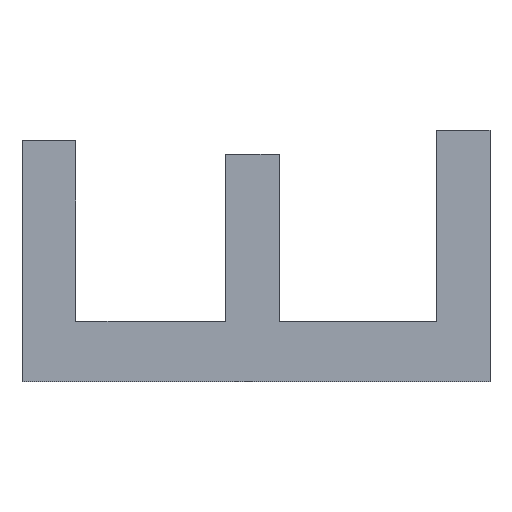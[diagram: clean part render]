
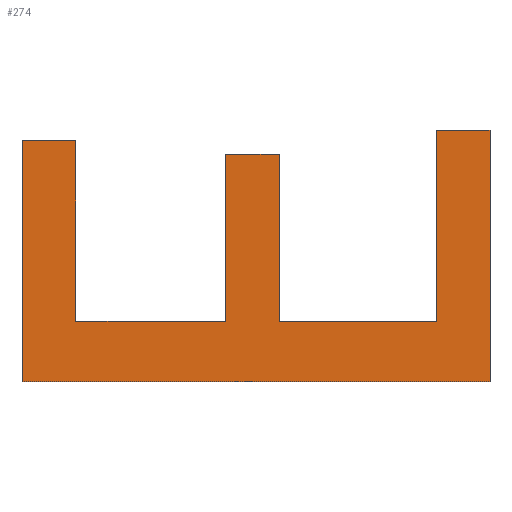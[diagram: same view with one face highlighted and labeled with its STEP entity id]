
A CAD part, top view. The second image highlights one B-rep face of the part: STEP entity #274.
In plain terms, the highlighted planar face has unit normal (0, 0, 1).
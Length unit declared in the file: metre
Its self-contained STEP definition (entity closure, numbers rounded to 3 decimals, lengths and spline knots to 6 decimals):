
#24=ORIENTED_EDGE('',*,*,#96,.T.);
#25=ORIENTED_EDGE('',*,*,#97,.T.);
#26=ORIENTED_EDGE('',*,*,#98,.T.);
#27=ORIENTED_EDGE('',*,*,#99,.T.);
#28=ORIENTED_EDGE('',*,*,#100,.T.);
#29=ORIENTED_EDGE('',*,*,#101,.T.);
#30=ORIENTED_EDGE('',*,*,#102,.T.);
#31=ORIENTED_EDGE('',*,*,#103,.T.);
#32=ORIENTED_EDGE('',*,*,#104,.T.);
#33=ORIENTED_EDGE('',*,*,#105,.T.);
#34=ORIENTED_EDGE('',*,*,#106,.T.);
#35=ORIENTED_EDGE('',*,*,#107,.T.);
#96=EDGE_CURVE('',#132,#133,#156,.T.);
#97=EDGE_CURVE('',#133,#134,#157,.T.);
#98=EDGE_CURVE('',#134,#135,#158,.T.);
#99=EDGE_CURVE('',#135,#136,#159,.T.);
#100=EDGE_CURVE('',#136,#137,#160,.T.);
#101=EDGE_CURVE('',#137,#138,#161,.T.);
#102=EDGE_CURVE('',#138,#139,#162,.T.);
#103=EDGE_CURVE('',#139,#140,#163,.T.);
#104=EDGE_CURVE('',#140,#141,#164,.T.);
#105=EDGE_CURVE('',#141,#142,#165,.T.);
#106=EDGE_CURVE('',#142,#143,#166,.T.);
#107=EDGE_CURVE('',#143,#132,#167,.T.);
#132=VERTEX_POINT('',#492);
#133=VERTEX_POINT('',#493);
#134=VERTEX_POINT('',#495);
#135=VERTEX_POINT('',#497);
#136=VERTEX_POINT('',#499);
#137=VERTEX_POINT('',#501);
#138=VERTEX_POINT('',#503);
#139=VERTEX_POINT('',#505);
#140=VERTEX_POINT('',#507);
#141=VERTEX_POINT('',#509);
#142=VERTEX_POINT('',#511);
#143=VERTEX_POINT('',#513);
#156=LINE('',#491,#192);
#157=LINE('',#494,#193);
#158=LINE('',#496,#194);
#159=LINE('',#498,#195);
#160=LINE('',#500,#196);
#161=LINE('',#502,#197);
#162=LINE('',#504,#198);
#163=LINE('',#506,#199);
#164=LINE('',#508,#200);
#165=LINE('',#510,#201);
#166=LINE('',#512,#202);
#167=LINE('',#514,#203);
#192=VECTOR('',#416,1.);
#193=VECTOR('',#417,1.);
#194=VECTOR('',#418,1.);
#195=VECTOR('',#419,1.);
#196=VECTOR('',#420,1.);
#197=VECTOR('',#421,1.);
#198=VECTOR('',#422,1.);
#199=VECTOR('',#423,1.);
#200=VECTOR('',#424,1.);
#201=VECTOR('',#425,1.);
#202=VECTOR('',#426,1.);
#203=VECTOR('',#427,1.);
#217=EDGE_LOOP('',(#24,#25,#26,#27,#28,#29,#30,#31,#32,#33,#34,#35));
#231=FACE_BOUND('',#217,.T.);
#245=PLANE('',#385);
#274=ADVANCED_FACE('',(#231),#245,.F.);
#385=AXIS2_PLACEMENT_3D('',#490,#414,#415);
#414=DIRECTION('',(0.,0.,-1.));
#415=DIRECTION('',(1.,0.,0.));
#416=DIRECTION('',(-1.,0.,0.));
#417=DIRECTION('',(0.,-1.,0.));
#418=DIRECTION('',(-1.,0.,0.));
#419=DIRECTION('',(0.,1.,0.));
#420=DIRECTION('',(-1.,0.,0.));
#421=DIRECTION('',(0.,-1.,0.));
#422=DIRECTION('',(-1.,0.,0.));
#423=DIRECTION('',(0.,1.,0.));
#424=DIRECTION('',(-1.,0.,0.));
#425=DIRECTION('',(0.,-1.,0.));
#426=DIRECTION('',(1.,0.,0.));
#427=DIRECTION('',(0.,1.,0.));
#490=CARTESIAN_POINT('',(-0.0704,-0.024012,0.010548));
#491=CARTESIAN_POINT('',(-0.070685,-0.023105,0.010548));
#492=CARTESIAN_POINT('',(-0.070678,-0.023105,0.010548));
#493=CARTESIAN_POINT('',(-0.070685,-0.023105,0.010548));
#494=CARTESIAN_POINT('',(-0.070685,-0.02313,0.010548));
#495=CARTESIAN_POINT('',(-0.070685,-0.02313,0.010548));
#496=CARTESIAN_POINT('',(-0.070705,-0.02313,0.010548));
#497=CARTESIAN_POINT('',(-0.070705,-0.02313,0.010548));
#498=CARTESIAN_POINT('',(-0.070705,-0.023108,0.010548));
#499=CARTESIAN_POINT('',(-0.070705,-0.023108,0.010548));
#500=CARTESIAN_POINT('',(-0.070712,-0.023108,0.010548));
#501=CARTESIAN_POINT('',(-0.070712,-0.023108,0.010548));
#502=CARTESIAN_POINT('',(-0.070712,-0.02313,0.010548));
#503=CARTESIAN_POINT('',(-0.070712,-0.02313,0.010548));
#504=CARTESIAN_POINT('',(-0.070732,-0.02313,0.010548));
#505=CARTESIAN_POINT('',(-0.070732,-0.02313,0.010548));
#506=CARTESIAN_POINT('',(-0.070732,-0.023106,0.010548));
#507=CARTESIAN_POINT('',(-0.070732,-0.023106,0.010548));
#508=CARTESIAN_POINT('',(-0.070739,-0.023106,0.010548));
#509=CARTESIAN_POINT('',(-0.070739,-0.023106,0.010548));
#510=CARTESIAN_POINT('',(-0.070739,-0.023138,0.010548));
#511=CARTESIAN_POINT('',(-0.070739,-0.023138,0.010548));
#512=CARTESIAN_POINT('',(-0.070678,-0.023138,0.010548));
#513=CARTESIAN_POINT('',(-0.070678,-0.023138,0.010548));
#514=CARTESIAN_POINT('',(-0.070678,-0.023105,0.010548));
